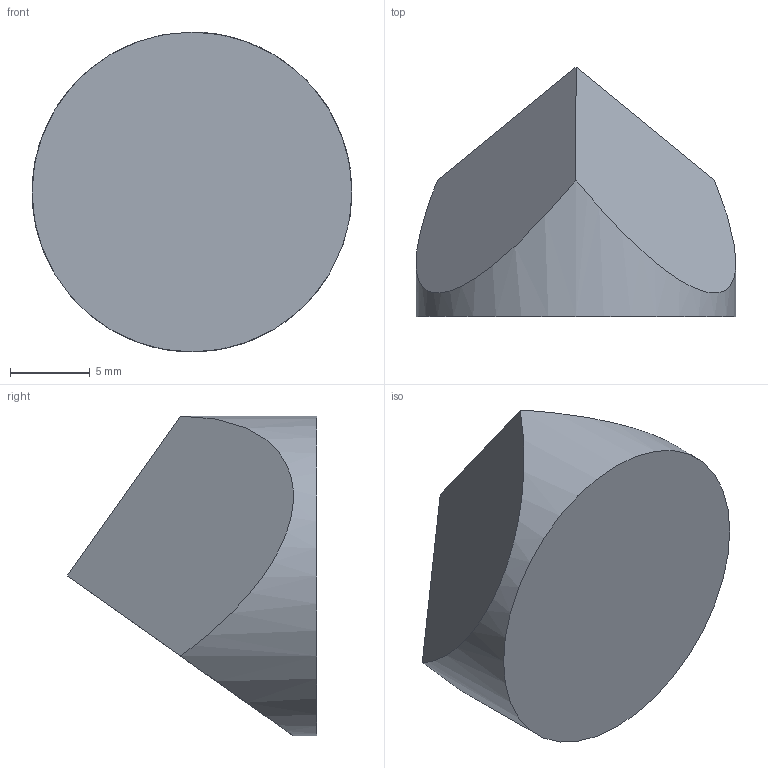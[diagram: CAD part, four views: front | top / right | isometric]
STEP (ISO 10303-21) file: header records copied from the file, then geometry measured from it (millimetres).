
FILE_DESCRIPTION((''),'2;1');
FILE_NAME('Z:\1図面ﾃﾞｰﾀ\7_素子\プリズム\5_コーナーキューブプリズム\CCB\ﾉｰｺｰﾄ\CCB-20\CCB-20.stp','2009-05-28T08:51:50',('kawashima'),(''),'Autodesk Inventor 2008','Autodesk Inventor 2008','');
FILE_SCHEMA(('AUTOMOTIVE_DESIGN { 1 0 10303 214 1 1 1 1 }'));
Length unit declared in the file: millimetre
Products named in the file (1): CCB-20
Bounding box: 20 x 15.6 x 20 mm (x, y, z)
Volume: 2451.4 mm3; surface area: 1103.6 mm2
Topology: 1 solids, 1 shells, 5 faces, 9 edges, 6 vertices
Faces by surface type: plane 4, cylinder 1
Full cylindrical faces by diameter (mm): 20 x1
Entity records: 139 total; most frequent: DIRECTION 23, CARTESIAN_POINT 18, ORIENTED_EDGE 14, AXIS2_PLACEMENT_3D 10, EDGE_CURVE 7, EDGE_LOOP 6, VERTEX_POINT 5, FACE_OUTER_BOUND 5
